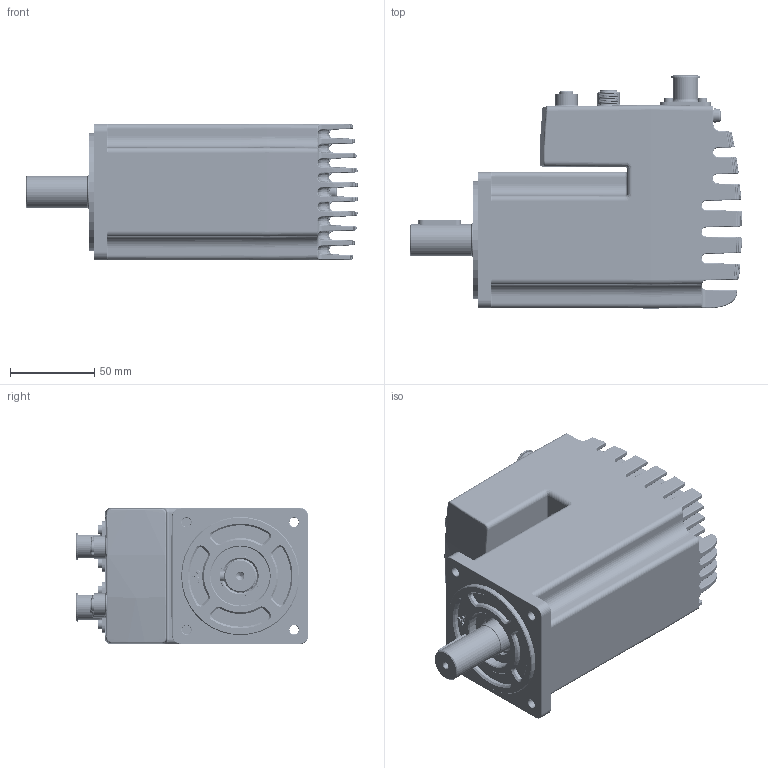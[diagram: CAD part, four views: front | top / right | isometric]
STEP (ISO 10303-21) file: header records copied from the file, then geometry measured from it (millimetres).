
FILE_DESCRIPTION((''),'2;1');
FILE_NAME('STEPPERASSY_ASM','2022-12-10T19:53:22',('Administrator'),(''),'CREO PARAMETRIC BY PTC INC, 2022014','CREO PARAMETRIC BY PTC INC, 2022014','');
FILE_SCHEMA(('AUTOMOTIVE_DESIGN { 1 0 10303 214 1 1 1 1 }'));
Length unit declared in the file: millimetre
Products named in the file (9): MAC802_BODY; MAC802_RFIN_002_3D; MAC802_XG1; MS0551_MAC802; MAC802_XD10; MAC802_XG0; DG1; MAC800_ASM_ASM; STEPPERASSY_ASM
Assembly tree (9 placements, depth 3):
  STEPPERASSY_ASM
    MAC800_ASM_ASM
      MAC802_BODY
      MAC802_RFIN_002_3D
      MAC802_XG1  x2
      MS0551_MAC802
      MAC802_XD10
      MAC802_XG0
      DG1
Bounding box: 196.47 x 137.89 x 80.77 mm (x, y, z)
Volume: 623106.3 mm3; surface area: 181036.3 mm2
Topology: 16 solids, 18 shells, 5944 faces, 15447 edges, 9227 vertices
Faces by surface type: plane 1828, cylinder 1368, extrusion 877, bspline 784, sphere 470, torus 446, cone 167, revolution 4
Entity records: 307710 total; most frequent: CARTESIAN_POINT 121695, ORIENTED_EDGE 29114, DIRECTION 24331, EDGE_CURVE 14557, PRESENTATION_STYLE_ASSIGNMENT 9309, STYLED_ITEM 9171, VERTEX_POINT 9056, AXIS2_PLACEMENT_3D 8593
